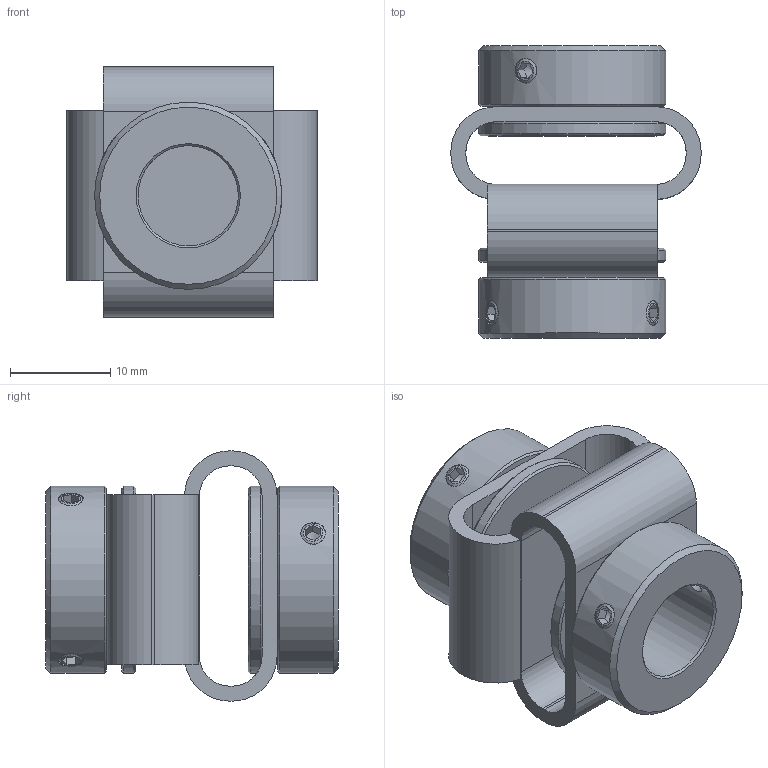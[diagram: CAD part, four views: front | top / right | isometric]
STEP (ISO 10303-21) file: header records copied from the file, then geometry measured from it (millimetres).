
FILE_DESCRIPTION(/* description */ (''),/* implementation_level */ '2;1');
FILE_NAME(/* name */ 'Z:\ABP-Antriebstechnik\Entwicklung-3D\Paguflex\DKPS 2928 05 10.stp',/* time_stamp */ '2017-06-30T08:08:13+02:00',/* author */ ('werner.boesinger'),/* organization */ (''),/* preprocessor_version */ 'ST-DEVELOPER v16.1',/* originating_system */ 'Autodesk Inventor 2016',/* authorisation */ '');
FILE_SCHEMA (('AUTOMOTIVE_DESIGN { 1 0 10303 214 3 1 1 }'));
Length unit declared in the file: millimetre
Products named in the file (1): DKPS 2928 05 10
Bounding box: 25 x 29.2 x 25 mm (x, y, z)
Volume: 5530.8 mm3; surface area: 5400.2 mm2
Topology: 1 solids, 3 shells, 154 faces, 366 edges, 226 vertices
Faces by surface type: plane 90, cylinder 36, cone 28
Full cylindrical faces by diameter (mm): 2.459 x8, 5 x1, 10 x1, 12.5 x2, 14 x4, 18.7 x4
Entity records: 4367 total; most frequent: CARTESIAN_POINT 961, DIRECTION 694, ORIENTED_EDGE 572, EDGE_CURVE 286, AXIS2_PLACEMENT_3D 273, EDGE_LOOP 220, VERTEX_POINT 192, STYLED_ITEM 155
